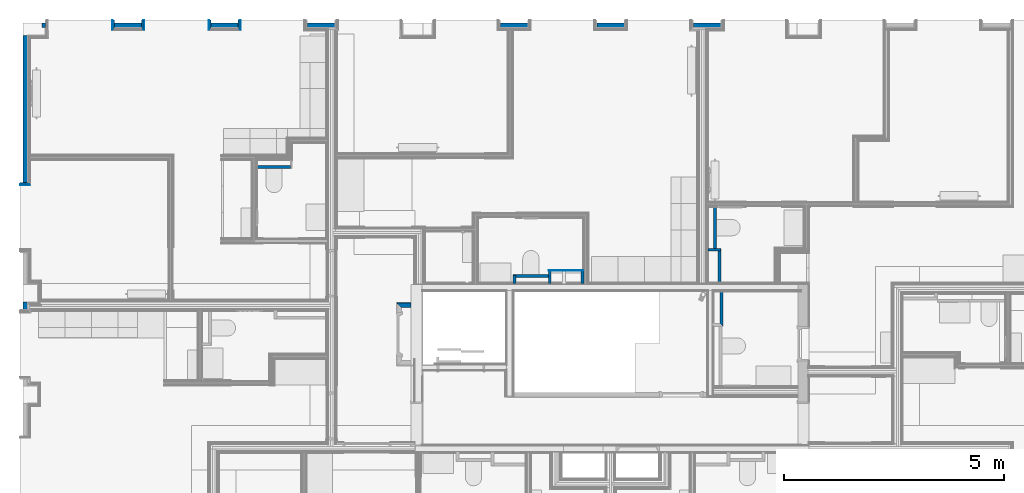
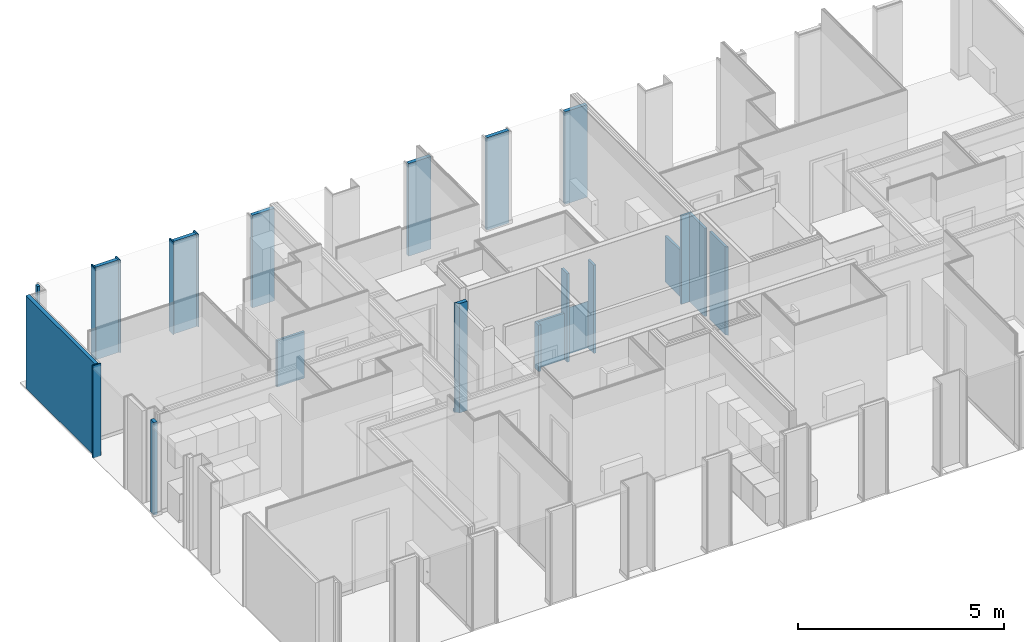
# One storey, part 4 of 65: 30 walls.
"""IFC2X3 building model written with IfcOpenShell, lengths in metres."""

from ifc_helpers import new_model, entity, si_unit, converted_unit, derived_unit, money_unit, direction, frame, frame_2d, origin_with_axes, place, context, subcontext, project, spatial, polyline, rectangle, outline, extrude, clip, bounded_halfspace, material, layer, layer_set, layer_usage, type_object, element, save


model = new_model("IFC2X3")

# Units and contexts
model_context = context("Model", 3, precision=1e-05, world=origin_with_axes(), true_north=direction((0.0, 1.0)))
body_context = subcontext(model_context, "Body", "Model", "MODEL_VIEW", scale=1.0)
ifc_project = project(units=[si_unit("LENGTHUNIT", "METRE"), si_unit("AREAUNIT", "SQUARE_METRE"), si_unit("VOLUMEUNIT", "CUBIC_METRE"), si_unit("ABSORBEDDOSEUNIT", "GRAY"), si_unit("AMOUNTOFSUBSTANCEUNIT", "MOLE"), si_unit("DOSEEQUIVALENTUNIT", "SIEVERT"), si_unit("ELECTRICCAPACITANCEUNIT", "FARAD"), si_unit("ELECTRICCHARGEUNIT", "COULOMB"), si_unit("ELECTRICCONDUCTANCEUNIT", "SIEMENS"), si_unit("ELECTRICCURRENTUNIT", "AMPERE"), si_unit("ELECTRICRESISTANCEUNIT", "OHM"), si_unit("ELECTRICVOLTAGEUNIT", "VOLT"), si_unit("ENERGYUNIT", "JOULE"), si_unit("FORCEUNIT", "NEWTON"), si_unit("FREQUENCYUNIT", "HERTZ"), si_unit("ILLUMINANCEUNIT", "LUX"), si_unit("INDUCTANCEUNIT", "HENRY"), si_unit("LUMINOUSFLUXUNIT", "LUMEN"), si_unit("LUMINOUSINTENSITYUNIT", "CANDELA"), si_unit("MAGNETICFLUXDENSITYUNIT", "TESLA"), si_unit("MAGNETICFLUXUNIT", "WEBER"), si_unit("MASSUNIT", "GRAM"), converted_unit("PLANEANGLEUNIT", "degree", entity("IfcReal", 0.0174532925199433), si_unit("PLANEANGLEUNIT", "RADIAN"), dimensions=[0, 0, 0, 0, 0, 0, 0]), si_unit("POWERUNIT", "WATT"), si_unit("PRESSUREUNIT", "PASCAL"), si_unit("RADIOACTIVITYUNIT", "BECQUEREL"), si_unit("SOLIDANGLEUNIT", "STERADIAN"), si_unit("THERMODYNAMICTEMPERATUREUNIT", "KELVIN"), si_unit("TIMEUNIT", "SECOND"), derived_unit("ACCELERATIONUNIT", [(si_unit("LENGTHUNIT", "METRE"), 1), (si_unit("TIMEUNIT", "SECOND"), -2)]), derived_unit("ANGULARVELOCITYUNIT", [(converted_unit("PLANEANGLEUNIT", "degree", entity("IfcReal", 0.0174532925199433), si_unit("PLANEANGLEUNIT", "RADIAN"), dimensions=[0, 0, 0, 0, 0, 0, 0]), 1), (si_unit("TIMEUNIT", "SECOND"), -1)]), derived_unit("CURVATUREUNIT", [(converted_unit("PLANEANGLEUNIT", "degree", entity("IfcReal", 0.0174532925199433), si_unit("PLANEANGLEUNIT", "RADIAN"), dimensions=[0, 0, 0, 0, 0, 0, 0]), 1), (si_unit("LENGTHUNIT", "METRE"), -1)]), derived_unit("DYNAMICVISCOSITYUNIT", [(si_unit("PRESSUREUNIT", "PASCAL"), 1), (si_unit("TIMEUNIT", "SECOND"), 1)]), derived_unit("HEATFLUXDENSITYUNIT", [(si_unit("POWERUNIT", "WATT"), 1), (si_unit("LENGTHUNIT", "METRE"), -2)]), derived_unit("HEATINGVALUEUNIT", [(si_unit("ENERGYUNIT", "JOULE"), 1), (si_unit("MASSUNIT", "GRAM"), -1)]), derived_unit("INTEGERCOUNTRATEUNIT", [(si_unit("TIMEUNIT", "SECOND"), -1)]), derived_unit("IONCONCENTRATIONUNIT", [(si_unit("MASSUNIT", "GRAM"), 1), (si_unit("VOLUMEUNIT", "CUBIC_METRE"), -1)]), derived_unit("ISOTHERMALMOISTURECAPACITYUNIT", [(si_unit("VOLUMEUNIT", "CUBIC_METRE"), 1), (si_unit("MASSUNIT", "GRAM"), -1)]), derived_unit("KINEMATICVISCOSITYUNIT", [(si_unit("AREAUNIT", "SQUARE_METRE"), 1), (si_unit("TIMEUNIT", "SECOND"), -1)]), derived_unit("LINEARFORCEUNIT", [(si_unit("FORCEUNIT", "NEWTON"), 1), (si_unit("LENGTHUNIT", "METRE"), -1)]), derived_unit("LINEARMOMENTUNIT", [(si_unit("FORCEUNIT", "NEWTON"), 1), (si_unit("LENGTHUNIT", "METRE"), -1)]), derived_unit("LINEARSTIFFNESSUNIT", [(si_unit("FORCEUNIT", "NEWTON"), 1), (si_unit("LENGTHUNIT", "METRE"), -1)]), derived_unit("LINEARVELOCITYUNIT", [(si_unit("LENGTHUNIT", "METRE"), 1), (si_unit("TIMEUNIT", "SECOND"), -1)]), derived_unit("LUMINOUSINTENSITYDISTRIBUTIONUNIT", [(si_unit("LUMINOUSINTENSITYUNIT", "CANDELA"), 1), (si_unit("LUMINOUSFLUXUNIT", "LUMEN"), -1)]), derived_unit("MASSDENSITYUNIT", [(si_unit("MASSUNIT", "GRAM"), 1), (si_unit("VOLUMEUNIT", "CUBIC_METRE"), -1)]), derived_unit("MASSFLOWRATEUNIT", [(si_unit("MASSUNIT", "GRAM"), 1), (si_unit("TIMEUNIT", "SECOND"), -1)]), derived_unit("MASSPERLENGTHUNIT", [(si_unit("MASSUNIT", "GRAM"), 1), (si_unit("LENGTHUNIT", "METRE"), -1)]), derived_unit("MODULUSOFELASTICITYUNIT", [(si_unit("FORCEUNIT", "NEWTON"), 1), (si_unit("AREAUNIT", "SQUARE_METRE"), -1)]), derived_unit("MODULUSOFLINEARSUBGRADEREACTIONUNIT", [(si_unit("FORCEUNIT", "NEWTON"), 1), (si_unit("LENGTHUNIT", "METRE"), -2)]), derived_unit("MODULUSOFROTATIONALSUBGRADEREACTIONUNIT", [(si_unit("FORCEUNIT", "NEWTON"), 1), (si_unit("LENGTHUNIT", "METRE"), 1)]), derived_unit("MODULUSOFSUBGRADEREACTIONUNIT", [(si_unit("FORCEUNIT", "NEWTON"), 1), (si_unit("VOLUMEUNIT", "CUBIC_METRE"), -1)]), derived_unit("MOISTUREDIFFUSIVITYUNIT", [(si_unit("VOLUMEUNIT", "CUBIC_METRE"), 1), (si_unit("TIMEUNIT", "SECOND"), -1)]), derived_unit("MOLECULARWEIGHTUNIT", [(si_unit("MASSUNIT", "GRAM"), 1), (si_unit("AMOUNTOFSUBSTANCEUNIT", "MOLE"), -1)]), derived_unit("PLANARFORCEUNIT", [(si_unit("FORCEUNIT", "NEWTON"), 1), (si_unit("LENGTHUNIT", "METRE"), -2)]), derived_unit("ROTATIONALFREQUENCYUNIT", [(si_unit("TIMEUNIT", "SECOND"), -1)]), derived_unit("ROTATIONALMASSUNIT", [(si_unit("MASSUNIT", "GRAM"), 1), (si_unit("LENGTHUNIT", "METRE"), 2)]), derived_unit("ROTATIONALSTIFFNESSUNIT", [(si_unit("FORCEUNIT", "NEWTON"), 1), (si_unit("LENGTHUNIT", "METRE"), 1), (converted_unit("PLANEANGLEUNIT", "degree", entity("IfcReal", 0.0174532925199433), si_unit("PLANEANGLEUNIT", "RADIAN"), dimensions=[0, 0, 0, 0, 0, 0, 0]), -1)]), derived_unit("SECTIONAREAINTEGRALUNIT", [(si_unit("LENGTHUNIT", "METRE"), 5)]), derived_unit("SECTIONMODULUSUNIT", [(si_unit("LENGTHUNIT", "METRE"), 3)]), derived_unit("SHEARMODULUSUNIT", [(si_unit("FORCEUNIT", "NEWTON"), 1), (si_unit("AREAUNIT", "SQUARE_METRE"), -1)]), derived_unit("SOUNDPOWERUNIT", [(si_unit("ENERGYUNIT", "JOULE"), 1), (si_unit("TIMEUNIT", "SECOND"), -1)]), derived_unit("SPECIFICHEATCAPACITYUNIT", [(si_unit("FORCEUNIT", "NEWTON"), 1), (si_unit("MASSUNIT", "GRAM"), -1), (si_unit("THERMODYNAMICTEMPERATUREUNIT", "KELVIN"), -1)]), derived_unit("TEMPERATUREGRADIENTUNIT", [(si_unit("THERMODYNAMICTEMPERATUREUNIT", "KELVIN"), 1), (si_unit("LENGTHUNIT", "METRE"), -1)]), derived_unit("THERMALADMITTANCEUNIT", [(si_unit("POWERUNIT", "WATT"), 1), (si_unit("AREAUNIT", "SQUARE_METRE"), -1), (si_unit("THERMODYNAMICTEMPERATUREUNIT", "KELVIN"), -1)]), derived_unit("THERMALCONDUCTANCEUNIT", [(si_unit("POWERUNIT", "WATT"), 1), (si_unit("LENGTHUNIT", "METRE"), -1), (si_unit("THERMODYNAMICTEMPERATUREUNIT", "KELVIN"), -1)]), derived_unit("THERMALEXPANSIONCOEFFICIENTUNIT", [(si_unit("THERMODYNAMICTEMPERATUREUNIT", "KELVIN"), -1)]), derived_unit("THERMALRESISTANCEUNIT", [(si_unit("AREAUNIT", "SQUARE_METRE"), 1), (si_unit("POWERUNIT", "WATT"), -1)]), derived_unit("THERMALTRANSMITTANCEUNIT", [(si_unit("POWERUNIT", "WATT"), 1), (si_unit("AREAUNIT", "SQUARE_METRE"), -1), (si_unit("THERMODYNAMICTEMPERATUREUNIT", "KELVIN"), -1)]), derived_unit("TORQUEUNIT", [(si_unit("FORCEUNIT", "NEWTON"), 1), (si_unit("LENGTHUNIT", "METRE"), 1)]), derived_unit("VAPORPERMEABILITYUNIT", [(si_unit("MASSUNIT", "GRAM"), 1), (si_unit("TIMEUNIT", "SECOND"), -1)]), derived_unit("VOLUMETRICFLOWRATEUNIT", [(si_unit("VOLUMEUNIT", "CUBIC_METRE"), 1), (si_unit("TIMEUNIT", "SECOND"), -1)]), derived_unit("WARPINGCONSTANTUNIT", [(si_unit("LENGTHUNIT", "METRE"), 6)]), derived_unit("WARPINGMOMENTUNIT", [(si_unit("FORCEUNIT", "NEWTON"), 1), (si_unit("LENGTHUNIT", "METRE"), 2)]), money_unit("GBP")], contexts=[model_context])

# Site, building, storey
site_placement = place(None, origin_with_axes())
site = spatial("IfcSite", under=ifc_project, at=site_placement, Name="Site", CompositionType="ELEMENT")
building_placement = place(site_placement, origin_with_axes())
building = spatial("IfcBuilding", under=site, at=building_placement, Name="Building01", CompositionType="ELEMENT")
storey_placement = place(building_placement, frame((0.0, 0.0, 8.64), z_axis=(0.0, 0.0, 1.0), x_axis=(1.0, 0.0, 0.0)))
storey = spatial("IfcBuildingStorey", under=building, at=storey_placement, Name="2F", CompositionType="ELEMENT", Elevation=8.64)

# Walls
ifc_material_1 = material(Name="A_BSUK_WallsExternal_Block")
ifc_layer_1 = layer(ifc_material_1, 0.1, ventilated=False)
ifc_layer_set_1 = layer_set([ifc_layer_1])
ifc_layer_usage_1 = layer_usage(ifc_layer_set_1, "AXIS2", "POSITIVE", 0.0)
wall_type_1 = type_object("IfcWallType", Name="A-Walls-ExternalBlock", PredefinedType="NOTDEFINED")
wall_1_placement = place(storey_placement, frame((0.6, 14.63, 0.0), z_axis=(0.0, 0.0, 1.0), x_axis=(1.0, 0.0, 0.0)))
element("IfcWallStandardCase", 1, at=wall_1_placement, inside=storey, type_object=wall_type_1, material=ifc_layer_usage_1, Name="A-Walls-ExternalBlock", ObjectType="A-Walls-ExternalBlock", context=body_context, shape_type="SweptSolid", body=[
    extrude(rectangle(XDim=0.077, YDim=0.1, at=frame_2d((0.0385, 0.05), x_axis=(1.0, 0.0))), origin_with_axes(), (0.0, 0.0, 1.0), 2.74),
])
wall_2_placement = place(storey_placement, frame((0.17, 14.45, 0.0), z_axis=(0.0, 0.0, 1.0), x_axis=(0.0, -1.0, 0.0)))
element("IfcWallStandardCase", 2, at=wall_2_placement, inside=storey, type_object=wall_type_1, material=ifc_layer_usage_1, Name="A-Walls-ExternalBlock", ObjectType="A-Walls-ExternalBlock", context=body_context, shape_type="SweptSolid", body=[
    extrude(rectangle(XDim=3.347, YDim=0.1, at=frame_2d((1.6735, 0.05), x_axis=(1.0, 0.0))), origin_with_axes(), (0.0, 0.0, 1.0), 2.74),
])
wall_3_placement = place(storey_placement, frame((0.17, 8.4, 0.0), z_axis=(0.0, 0.0, 1.0), x_axis=(0.0, -1.0, 0.0)))
element("IfcWallStandardCase", 3, at=wall_3_placement, inside=storey, type_object=wall_type_1, material=ifc_layer_usage_1, Name="A-Walls-ExternalBlock", ObjectType="A-Walls-ExternalBlock", context=body_context, shape_type="SweptSolid", body=[
    extrude(rectangle(XDim=0.167, YDim=0.1, at=frame_2d((0.0835, 0.05), x_axis=(-1.0, 0.0))), origin_with_axes(), (0.0, 0.0, 1.0), 2.74),
])
for number, where, z_axis, x_axis, name in (
    (4, (2.243, 14.63, 0.0), (0.0, 0.0, 1.0), (1.0, 0.0, 0.0), "A-Walls-ExternalBlock"),
    (5, (4.433, 14.63, 0.0), (0.0, 0.0, 1.0), (1.0, 0.0, 0.0), "A-Walls-ExternalBlock"),
):
    element("IfcWallStandardCase", number, at=place(storey_placement, frame(where, z_axis=z_axis, x_axis=x_axis)), inside=storey, type_object=wall_type_1, material=ifc_layer_usage_1, Name=name, ObjectType="A-Walls-ExternalBlock", context=body_context, shape_type="SweptSolid", body=[
        extrude(rectangle(XDim=0.624, YDim=0.1, at=frame_2d((0.312, 0.05), x_axis=(1.0, 0.0))), origin_with_axes(), (0.0, 0.0, 1.0), 2.74),
    ])
wall_4_placement = place(storey_placement, frame((6.622876, 14.63, 0.0), z_axis=(0.0, 0.0, 1.0), x_axis=(1.0, 0.0, 0.0)))
element("IfcWallStandardCase", 6, at=wall_4_placement, inside=storey, type_object=wall_type_1, material=ifc_layer_usage_1, Name="A-Walls-ExternalBlock", ObjectType="A-Walls-ExternalBlock", context=body_context, shape_type="SweptSolid", body=[
    extrude(rectangle(XDim=0.624124, YDim=0.1, at=frame_2d((0.312062, 0.05), x_axis=(-1.0, 0.0))), origin_with_axes(), (0.0, 0.0, 1.0), 2.74),
])
for number, where, z_axis, x_axis, name in (
    (7, (11.003, 14.63, 0.0), (0.0, 0.0, 1.0), (1.0, 0.0, 0.0), "A-Walls-ExternalBlock"),
    (8, (13.193, 14.63, 0.0), (0.0, 0.0, 1.0), (1.0, 0.0, 0.0), "A-Walls-ExternalBlock"),
    (9, (15.383, 14.63, 0.0), (0.0, 0.0, 1.0), (1.0, 0.0, 0.0), "A-Walls-ExternalBlock"),
):
    element("IfcWallStandardCase", number, at=place(storey_placement, frame(where, z_axis=z_axis, x_axis=x_axis)), inside=storey, type_object=wall_type_1, material=ifc_layer_usage_1, Name=name, ObjectType="A-Walls-ExternalBlock", context=body_context, shape_type="SweptSolid", body=[
        extrude(rectangle(XDim=0.624, YDim=0.1, at=frame_2d((0.312, 0.05), x_axis=(1.0, 0.0))), origin_with_axes(), (0.0, 0.0, 1.0), 2.74),
    ])
ifc_material_2 = material(Name="A_BSUK_OpeningsClearance")
ifc_layer_2 = layer(ifc_material_2, 0.05, ventilated=False)
ifc_material_3 = material(Name="A_BSUK_Walls_Timber")
ifc_layer_3 = layer(ifc_material_3, 0.015, ventilated=False)
ifc_layer_set_2 = layer_set([ifc_layer_2, ifc_layer_3])
ifc_layer_usage_2 = layer_usage(ifc_layer_set_2, "AXIS2", "POSITIVE", 0.0)
wall_type_2 = type_object("IfcWallType", Name="SHE_A-Walls_Type05c_PreWallShell_65mm", PredefinedType="NOTDEFINED")
wall_5_placement = place(storey_placement, frame((12.153871, 8.82, 0.0), z_axis=(0.0, 0.0, 1.0), x_axis=(0.0, 1.0, 0.0)))
element("IfcWallStandardCase", 10, at=wall_5_placement, inside=storey, type_object=wall_type_2, material=ifc_layer_usage_2, Name="5C", ObjectType="SHE_A-Walls_Type05c_PreWallShell_65mm", context=body_context, shape_type="SweptSolid", body=[
    extrude(outline(polyline([(0.285, 0.05), (0.3, 0.05), (0.3, 0.065), (0.0, 0.065), (0.0, 0.0), (0.285, 0.0), (0.285, 0.05)])), origin_with_axes(), (0.0, 0.0, 1.0), 2.615),
])
ifc_layer_set_3 = layer_set([ifc_layer_3, ifc_layer_2])
ifc_layer_usage_3 = layer_usage(ifc_layer_set_3, "AXIS2", "POSITIVE", 0.0)
wall_6_placement = place(storey_placement, frame((15.985, 7.915, 0.0), z_axis=(0.0, 0.0, 1.0), x_axis=(0.0, 1.0, 0.0)))
element("IfcWallStandardCase", 11, at=wall_6_placement, inside=storey, type_object=wall_type_2, material=ifc_layer_usage_3, Name="5C", ObjectType="SHE_A-Walls_Type05c_PreWallShell_65mm", context=body_context, shape_type="SweptSolid", body=[
    extrude(outline(polyline([(0.72, -0.05), (0.75, -0.05), (0.75, 0.0), (0.0, 0.0), (-0.065, -0.065), (0.72, -0.065), (0.72, -0.05)])), origin_with_axes(), (0.0, 0.0, 1.0), 2.615),
])
wall_7_placement = place(storey_placement, frame((12.828585, 8.82, 0.0), z_axis=(0.0, 0.0, 1.0), x_axis=(0.0, 1.0, 0.0)))
element("IfcWallStandardCase", 12, at=wall_7_placement, inside=storey, type_object=wall_type_2, material=ifc_layer_usage_3, Name="5C", ObjectType="SHE_A-Walls_Type05c_PreWallShell_65mm", context=body_context, shape_type="SweptSolid", body=[
    extrude(outline(polyline([(0.285, -0.05), (0.285, 0.0), (0.0, 0.0), (0.0, -0.065), (0.3, -0.065), (0.3, -0.05), (0.285, -0.05)])), origin_with_axes(), (0.0, 0.0, 1.0), 2.615),
])
wall_8_placement = place(storey_placement, frame((15.943132, 9.555, 0.0), z_axis=(0.0, 0.0, 1.0), x_axis=(0.0, -1.0, 0.0)))
element("IfcWallStandardCase", 13, at=wall_8_placement, inside=storey, type_object=wall_type_2, material=ifc_layer_usage_2, Name="5C", ObjectType="SHE_A-Walls_Type05c_PreWallShell_65mm", context=body_context, shape_type="SweptSolid", body=[
    extrude(outline(polyline([(0.72, 0.05), (0.72, 0.065), (-0.065, 0.065), (-0.065, 0.05), (0.0, 0.05), (0.0, 0.0), (0.735, 0.0), (0.735, 0.05), (0.72, 0.05)])), origin_with_axes(), (0.0, 0.0, 1.0), 2.615),
])
wall_9_placement = place(storey_placement, frame((15.708132, 9.555, 0.0), z_axis=(0.0, 0.0, 1.0), x_axis=(1.0, 0.0, 0.0)))
element("IfcWallStandardCase", 14, at=wall_9_placement, inside=storey, type_object=wall_type_2, material=ifc_layer_usage_2, Name="5C", ObjectType="SHE_A-Walls_Type05c_PreWallShell_65mm", context=body_context, shape_type="SweptSolid", body=[
    extrude(rectangle(XDim=0.285, YDim=0.065, at=frame_2d((0.1425, 0.0325), x_axis=(-1.0, 0.0))), origin_with_axes(), (0.0, 0.0, 1.0), 2.615),
])
wall_10_placement = place(storey_placement, frame((15.843132, 9.605, 0.0), z_axis=(0.0, 0.0, 1.0), x_axis=(0.0, 1.0, 0.0)))
element("IfcWallStandardCase", 15, at=wall_10_placement, inside=storey, type_object=wall_type_2, material=ifc_layer_usage_3, Name="5C", ObjectType="SHE_A-Walls_Type05c_PreWallShell_65mm", context=body_context, shape_type="SweptSolid", body=[
    extrude(outline(polyline([(0.95, -0.05), (0.965, -0.05), (0.965, 0.0), (0.0, 0.0), (0.0, -0.05), (-0.05, -0.05), (-0.05, -0.065), (0.95, -0.065), (0.95, -0.05)])), origin_with_axes(), (0.0, 0.0, 1.0), 1.375),
])
wall_11_placement = place(storey_placement, frame((5.464669, 11.495672, 0.0), z_axis=(0.0, 0.0, 1.0), x_axis=(1.0, 0.0, 0.0)))
element("IfcWallStandardCase", 16, at=wall_11_placement, inside=storey, type_object=wall_type_2, material=ifc_layer_usage_3, Name="5C", ObjectType="SHE_A-Walls_Type05c_PreWallShell_65mm", context=body_context, shape_type="SweptSolid", body=[
    extrude(outline(polyline([(0.775, 0.0), (0.0, 0.0), (0.0, -0.05), (0.015, -0.05), (0.015, -0.065), (0.775, -0.065), (0.775, 0.0)])), origin_with_axes(), (0.0, 0.0, 1.0), 1.375),
])
wall_12_placement = place(storey_placement, frame((12.103871, 8.954996, 0.0), z_axis=(0.0, 0.0, 1.0), x_axis=(-1.0, 0.0, 0.0)))
element("IfcWallStandardCase", 17, at=wall_12_placement, inside=storey, type_object=wall_type_2, material=ifc_layer_usage_3, Name="5C", ObjectType="SHE_A-Walls_Type05c_PreWallShell_65mm", context=body_context, shape_type="SweptSolid", body=[
    extrude(outline(polyline([(0.749998, -0.05), (0.749998, 0.0), (0.0, 0.0), (0.0, -0.05), (0.015, -0.05), (0.015, -0.065), (0.799998, -0.065), (0.799998, -0.05), (0.749998, -0.05)])), origin_with_axes(), (0.0, 0.0, 1.0), 1.375),
])
wall_13_placement = place(storey_placement, frame((11.353873, 8.82, 0.0), z_axis=(0.0, 0.0, 1.0), x_axis=(0.0, 1.0, 0.0)))
element("IfcWallStandardCase", 18, at=wall_13_placement, inside=storey, type_object=wall_type_2, material=ifc_layer_usage_2, Name="5C", ObjectType="SHE_A-Walls_Type05c_PreWallShell_65mm", context=body_context, shape_type="SweptSolid", body=[
    extrude(outline(polyline([(0.184996, 0.05), (0.199996, 0.05), (0.199996, 0.065), (0.0, 0.065), (0.0, 0.0), (0.184996, 0.0), (0.184996, 0.05)])), origin_with_axes(), (0.0, 0.0, 1.0), 1.375),
])
ifc_material_4 = material(Name="A_BSUK_WallInternal_Finishes_Plasterboard")
ifc_layer_4 = layer(ifc_material_4, 0.013, ventilated=False)
ifc_layer_set_4 = layer_set([ifc_layer_4])
ifc_layer_usage_4 = layer_usage(ifc_layer_set_4, "AXIS2", "POSITIVE", 0.0)
wall_type_3 = type_object("IfcWallType", Name="default", PredefinedType="NOTDEFINED")
wall_14_placement = place(storey_placement, frame((0.305, 11.068, 0.0), z_axis=(0.0, 0.0, 1.0), x_axis=(-1.0, 0.0, 0.0)))
element("IfcWallStandardCase", 19, at=wall_14_placement, inside=storey, type_object=wall_type_3, material=ifc_layer_usage_4, Name="default", ObjectType="default", context=body_context, shape_type="SweptSolid", body=[
    extrude(outline(polyline([(-0.013, 0.013), (0.0, 0.0), (0.205, 0.0), (0.205, 0.013), (-0.013, 0.013)])), origin_with_axes(), (0.0, 0.0, 1.0), 2.74),
])
ifc_material_5 = material(Name="A_BSUK_Insulation")
ifc_layer_5 = layer(ifc_material_5, 0.036, ventilated=False)
ifc_layer_set_5 = layer_set([ifc_layer_5])
ifc_layer_usage_5 = layer_usage(ifc_layer_set_5, "AXIS2", "POSITIVE", 0.0)
wall_15_placement = place(storey_placement, frame((0.27, 11.103, 0.0), z_axis=(0.0, 0.0, 1.0), x_axis=(-1.0, 0.0, 0.0)))
element("IfcWallStandardCase", 20, at=wall_15_placement, inside=storey, type_object=wall_type_3, material=ifc_layer_usage_5, Name="default", ObjectType="default", context=body_context, shape_type="SweptSolid", body=[
    extrude(outline(polyline([(-0.036, 0.036), (0.0, 0.0), (0.17, 0.0), (0.17, 0.036), (-0.036, 0.036)])), origin_with_axes(), (0.0, 0.0, 1.0), 2.74),
])
wall_16_placement = place(storey_placement, frame((2.902, 14.8, 0.0), z_axis=(0.0, 0.0, 1.0), x_axis=(0.0, -1.0, 0.0)))
element("IfcWallStandardCase", 21, at=wall_16_placement, inside=storey, type_object=wall_type_3, material=ifc_layer_usage_4, Name="default", ObjectType="default", context=body_context, shape_type="SweptSolid", body=[
    extrude(outline(polyline([(0.218, 0.013), (0.0, 0.013), (0.0, 0.0), (0.205, 0.0), (0.218, 0.013)])), origin_with_axes(), (0.0, 0.0, 1.0), 2.74),
])
wall_17_placement = place(storey_placement, frame((2.867, 14.8, 0.0), z_axis=(0.0, 0.0, 1.0), x_axis=(0.0, -1.0, 0.0)))
element("IfcWallStandardCase", 22, at=wall_17_placement, inside=storey, type_object=wall_type_3, material=ifc_layer_usage_5, Name="default", ObjectType="default", context=body_context, shape_type="SweptSolid", body=[
    extrude(outline(polyline([(0.206, 0.036), (0.0, 0.036), (0.0, 0.0), (0.17, 0.0), (0.206, 0.036)])), origin_with_axes(), (0.0, 0.0, 1.0), 2.74),
])
wall_18_placement = place(storey_placement, frame((2.208, 14.595, 0.0), z_axis=(0.0, 0.0, 1.0), x_axis=(0.0, 1.0, 0.0)))
element("IfcWallStandardCase", 23, at=wall_18_placement, inside=storey, type_object=wall_type_3, material=ifc_layer_usage_4, Name="default", ObjectType="default", context=body_context, shape_type="SweptSolid", body=[
    extrude(outline(polyline([(-0.013, 0.013), (0.0, 0.0), (0.205, 0.0), (0.205, 0.013), (-0.013, 0.013)])), origin_with_axes(), (0.0, 0.0, 1.0), 2.74),
])
wall_19_placement = place(storey_placement, frame((2.243, 14.63, 0.0), z_axis=(0.0, 0.0, 1.0), x_axis=(0.0, 1.0, 0.0)))
element("IfcWallStandardCase", 24, at=wall_19_placement, inside=storey, type_object=wall_type_3, material=ifc_layer_usage_5, Name="default", ObjectType="default", context=body_context, shape_type="SweptSolid", body=[
    extrude(outline(polyline([(-0.036, 0.036), (0.0, 0.0), (0.17, 0.0), (0.17, 0.036), (-0.036, 0.036)])), origin_with_axes(), (0.0, 0.0, 1.0), 2.74),
])
wall_20_placement = place(storey_placement, frame((5.092, 14.8, 0.0), z_axis=(0.0, 0.0, 1.0), x_axis=(0.0, -1.0, 0.0)))
element("IfcWallStandardCase", 25, at=wall_20_placement, inside=storey, type_object=wall_type_3, material=ifc_layer_usage_4, Name="default", ObjectType="default", context=body_context, shape_type="SweptSolid", body=[
    extrude(outline(polyline([(0.218, 0.013), (0.0, 0.013), (0.0, 0.0), (0.205, 0.0), (0.218, 0.013)])), origin_with_axes(), (0.0, 0.0, 1.0), 2.74),
])
wall_21_placement = place(storey_placement, frame((5.057, 14.8, 0.0), z_axis=(0.0, 0.0, 1.0), x_axis=(0.0, -1.0, 0.0)))
element("IfcWallStandardCase", 26, at=wall_21_placement, inside=storey, type_object=wall_type_3, material=ifc_layer_usage_5, Name="default", ObjectType="default", context=body_context, shape_type="SweptSolid", body=[
    extrude(outline(polyline([(0.206, 0.036), (0.0, 0.036), (0.0, 0.0), (0.17, 0.0), (0.206, 0.036)])), origin_with_axes(), (0.0, 0.0, 1.0), 2.74),
])
wall_22_placement = place(storey_placement, frame((4.398, 14.595, 0.0), z_axis=(0.0, 0.0, 1.0), x_axis=(0.0, 1.0, 0.0)))
element("IfcWallStandardCase", 27, at=wall_22_placement, inside=storey, type_object=wall_type_3, material=ifc_layer_usage_4, Name="default", ObjectType="default", context=body_context, shape_type="SweptSolid", body=[
    extrude(outline(polyline([(-0.013, 0.013), (0.0, 0.0), (0.205, 0.0), (0.205, 0.013), (-0.013, 0.013)])), origin_with_axes(), (0.0, 0.0, 1.0), 2.74),
])
wall_23_placement = place(storey_placement, frame((4.433, 14.63, 0.0), z_axis=(0.0, 0.0, 1.0), x_axis=(0.0, 1.0, 0.0)))
element("IfcWallStandardCase", 28, at=wall_23_placement, inside=storey, type_object=wall_type_3, material=ifc_layer_usage_5, Name="default", ObjectType="default", context=body_context, shape_type="SweptSolid", body=[
    extrude(outline(polyline([(-0.036, 0.036), (0.0, 0.0), (0.17, 0.0), (0.17, 0.036), (-0.036, 0.036)])), origin_with_axes(), (0.0, 0.0, 1.0), 2.74),
])
ifc_layer_set_6 = layer_set([ifc_layer_3])
ifc_layer_usage_6 = layer_usage(ifc_layer_set_6, "AXIS2", "POSITIVE", 0.0)
wall_24_placement = place(storey_placement, frame((12.103871, 9.105, 0.0), z_axis=(0.0, 0.0, 1.0), x_axis=(1.0, 0.0, 0.0)))
element("IfcWallStandardCase", 29, at=wall_24_placement, inside=storey, type_object=wall_type_3, material=ifc_layer_usage_6, Name="default", ObjectType="default", context=body_context, shape_type="SweptSolid", body=[
    extrude(rectangle(XDim=0.774714, YDim=0.015, at=frame_2d((0.387357, 0.0075), x_axis=(-1.0, 0.0))), origin_with_axes(), (0.0, 0.0, 1.0), 1.375),
])
ifc_layer_6 = layer(ifc_material_4, 0.015, ventilated=False)
ifc_material_6 = material(Name="Air Cavity")
ifc_layer_7 = layer(ifc_material_6, 0.072, ventilated=False)
ifc_layer_set_7 = layer_set([ifc_layer_6, ifc_layer_7, ifc_layer_6, ifc_layer_3])
ifc_layer_usage_7 = layer_usage(ifc_layer_set_7, "AXIS2", "POSITIVE", 0.0)
wall_type_4 = type_object("IfcWallType", Name="SHE_A-Walls_Type04c_RiserWall_102mm_tall", PredefinedType="NOTDEFINED")
wall_25_placement = place(storey_placement, frame((8.658, 8.372405, 0.015), z_axis=(0.0, 0.0, 1.0), x_axis=(1.0, 0.0, 0.0)))
element("IfcWallStandardCase", 30, at=wall_25_placement, inside=storey, type_object=wall_type_4, material=ifc_layer_usage_7, Name="4C", ObjectType="SHE_A-Walls_Type04c_RiserWall_102mm_tall", context=body_context, shape_type="Clipping", body=[
    clip(clip(extrude(outline(polyline([(0.102, -0.102), (0.317, -0.102), (0.317, 0.015), (-0.015, 0.015), (0.0, 0.0), (0.0, -0.015), (0.015, -0.015), (0.102, -0.102)])), frame((0.0, 0.0, -0.015), z_axis=(0.0, 0.0, 1.0), x_axis=(1.0, 0.0, 0.0)), (0.0, 0.0, 1.0), 3.24), bounded_halfspace(frame((0.0, 0.0, 0.1), z_axis=(0.0, 0.0, 1.0), x_axis=(1.0, 0.0, 0.0)), False, frame((0.0, 0.0, 0.1), z_axis=(0.0, 0.0, 1.0), x_axis=(1.0, 0.0, 0.0)), polyline([(-0.015, 0.015), (0.0, 0.0), (0.317, 0.0), (0.317, 0.015), (-0.015, 0.015)]))), bounded_halfspace(frame((0.0, 0.0, 0.0), z_axis=(0.0, 0.0, -1.0), x_axis=(-1.0, 0.0, 0.0)), False, frame((0.0, 0.0, 0.0), z_axis=(0.0, 0.0, -1.0), x_axis=(-1.0, 0.0, 0.0)), polyline([(-0.317, 0.015), (-0.317, 0.0), (0.0, 0.0), (0.015, 0.015), (-0.317, 0.015)]))),
])

save(model, "model.ifc")
